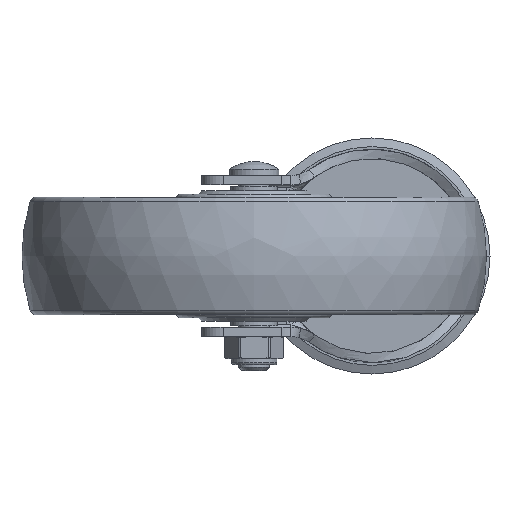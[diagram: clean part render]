
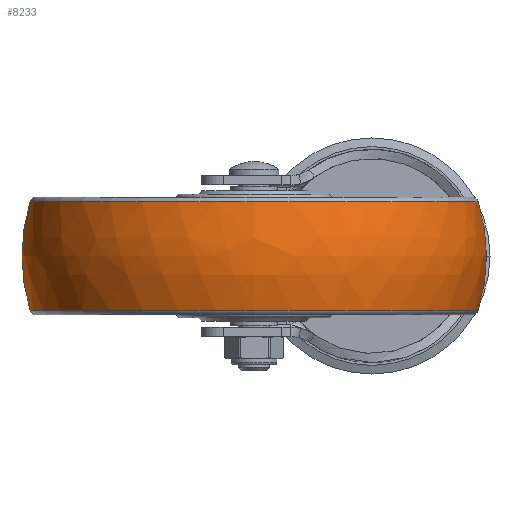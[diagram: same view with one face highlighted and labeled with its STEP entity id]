
A CAD part, front view. The second image highlights one B-rep face of the part: STEP entity #8233.
In plain terms, the highlighted free-form (B-spline) face has degree [3, 3] with [7, 4] control points.
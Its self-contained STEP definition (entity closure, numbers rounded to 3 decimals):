
#7476=CARTESIAN_POINT('',(-106.116,13.994,0.));
#7477=DIRECTION('',(-1.,0.,0.));
#7478=DIRECTION('',(0.,1.,0.));
#7479=AXIS2_PLACEMENT_3D('',#7476,#7477,#7478);
#7481=CARTESIAN_POINT('',(-88.53,28.994,0.));
#7482=DIRECTION('',(0.,0.,1.));
#7483=DIRECTION('',(0.293,0.956,0.));
#7484=AXIS2_PLACEMENT_3D('',#7481,#7482,#7483);
#7486=CARTESIAN_POINT('',(-88.53,-1.006,0.));
#7487=DIRECTION('',(0.,0.,-1.));
#7488=DIRECTION('',(0.293,-0.956,0.));
#7489=AXIS2_PLACEMENT_3D('',#7486,#7487,#7488);
#7491=CARTESIAN_POINT('',(-70.943,13.994,0.));
#7492=DIRECTION('',(-1.,0.,0.));
#7493=DIRECTION('',(0.,1.,0.));
#7494=AXIS2_PLACEMENT_3D('',#7491,#7492,#7493);
#7772=CARTESIAN_POINT('',(-70.943,86.359,0.));
#7774=VERTEX_POINT('',#7772);
#7775=CARTESIAN_POINT('',(-106.116,86.359,0.));
#7776=VERTEX_POINT('',#7775);
#7812=CARTESIAN_POINT('',(-70.943,-58.37,
0.));
#7814=VERTEX_POINT('',#7812);
#7815=CARTESIAN_POINT('',(-106.116,-58.37,
0.));
#7816=VERTEX_POINT('',#7815);
#8195=CARTESIAN_POINT('',(-106.797,-58.015,
4.53));
#8196=CARTESIAN_POINT('',(-94.818,-61.836,
4.771));
#8197=CARTESIAN_POINT('',(-82.241,-61.836,
4.771));
#8198=CARTESIAN_POINT('',(-70.262,-58.015,
4.53));
#8199=CARTESIAN_POINT('',(-106.797,-60.803,
-39.784));
#8200=CARTESIAN_POINT('',(-94.818,-64.772,
-41.895));
#8201=CARTESIAN_POINT('',(-82.241,-64.772,
-41.895));
#8202=CARTESIAN_POINT('',(-70.262,-60.803,
-39.784));
#8203=CARTESIAN_POINT('',(-106.797,-30.408,
-72.152));
#8204=CARTESIAN_POINT('',(-94.818,-32.764,
-75.981));
#8205=CARTESIAN_POINT('',(-82.241,-32.764,
-75.981));
#8206=CARTESIAN_POINT('',(-70.262,-30.408,
-72.152));
#8207=CARTESIAN_POINT('',(-106.797,13.994,
-72.152));
#8208=CARTESIAN_POINT('',(-94.818,13.994,
-75.981));
#8209=CARTESIAN_POINT('',(-82.241,13.994,
-75.981));
#8210=CARTESIAN_POINT('',(-70.262,13.994,
-72.152));
#8211=CARTESIAN_POINT('',(-106.797,58.396,
-72.152));
#8212=CARTESIAN_POINT('',(-94.818,60.753,
-75.981));
#8213=CARTESIAN_POINT('',(-82.241,60.753,
-75.981));
#8214=CARTESIAN_POINT('',(-70.262,58.396,
-72.152));
#8215=CARTESIAN_POINT('',(-106.797,88.792,
-39.784));
#8216=CARTESIAN_POINT('',(-94.818,92.761,
-41.895));
#8217=CARTESIAN_POINT('',(-82.241,92.761,
-41.895));
#8218=CARTESIAN_POINT('',(-70.262,88.792,
-39.784));
#8219=CARTESIAN_POINT('',(-106.797,86.004,4.53));
#8220=CARTESIAN_POINT('',(-94.818,89.825,4.771));
#8221=CARTESIAN_POINT('',(-82.241,89.825,4.771));
#8222=CARTESIAN_POINT('',(-70.262,86.004,4.53));
#8223=(BOUNDED_SURFACE()B_SPLINE_SURFACE(3,3,((#8195,#8196,#8197,#8198),(#8199,
#8200,#8201,#8202),(#8203,#8204,#8205,#8206),(#8207,#8208,#8209,#8210),(#8211,
#8212,#8213,#8214),(#8215,#8216,#8217,#8218),(#8219,#8220,#8221,#8222)),
.UNSPECIFIED.,.F.,.F.,.F.)B_SPLINE_SURFACE_WITH_KNOTS((4,3,4),(4,4),(0.,1.,
2.),(0.,1.),.UNSPECIFIED.)GEOMETRIC_REPRESENTATION_ITEM()RATIONAL_B_SPLINE_SURFACE(((1.216,1.178,1.178,1.216),(
0.96,0.93,0.93,0.96),(
0.96,0.93,0.93,0.96),(
1.216,1.178,1.178,1.216),(
0.96,0.93,0.93,0.96),(
0.96,0.93,0.93,0.96),(
1.216,1.178,1.178,1.216)))REPRESENTATION_ITEM('')SURFACE());
#8225=ORIENTED_EDGE('',*,*,#8224,.T.);
#8226=ORIENTED_EDGE('',*,*,#8190,.T.);
#8228=ORIENTED_EDGE('',*,*,#8227,.F.);
#8230=ORIENTED_EDGE('',*,*,#8229,.F.);
#8231=EDGE_LOOP('',(#8225,#8226,#8228,#8230));
#8232=FACE_OUTER_BOUND('',#8231,.F.);
#7480=CIRCLE('',#7479,72.365);
#7485=CIRCLE('',#7484,60.);
#7490=CIRCLE('',#7489,60.);
#7495=CIRCLE('',#7494,72.365);
#8190=EDGE_CURVE('',#7776,#7816,#7480,.T.);
#8224=EDGE_CURVE('',#7774,#7776,#7485,.T.);
#8227=EDGE_CURVE('',#7814,#7816,#7490,.T.);
#8229=EDGE_CURVE('',#7774,#7814,#7495,.T.);
#8233=ADVANCED_FACE('',(#8232),#8223,.T.);
